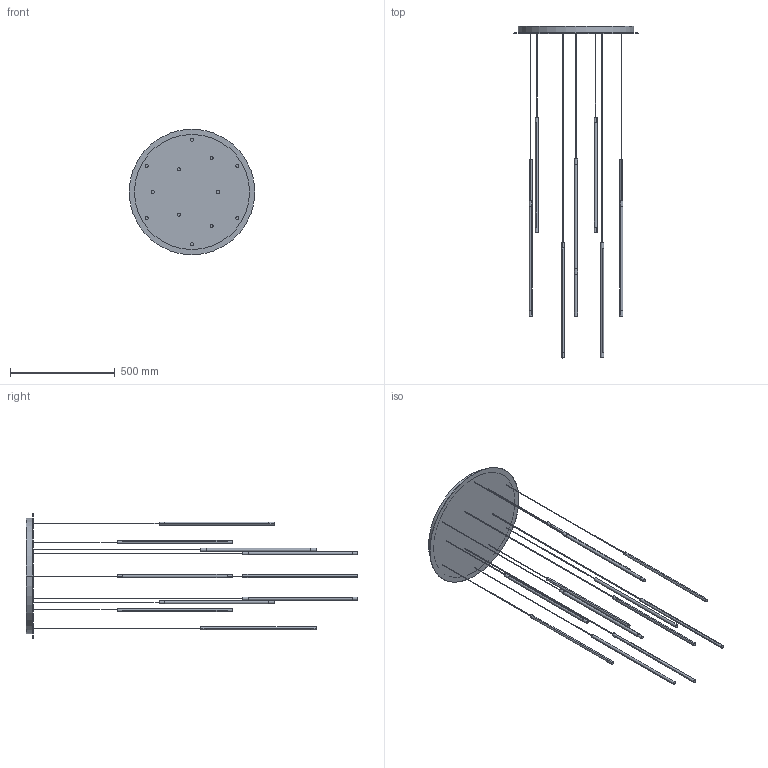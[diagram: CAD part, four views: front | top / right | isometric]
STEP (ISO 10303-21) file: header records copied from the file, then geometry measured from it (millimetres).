
FILE_DESCRIPTION (( 'STEP AP203' ), '1' );
FILE_NAME ('MP14924-xx.STEP', '2019-11-20T21:16:36', ( '' ), ( '' ), 'SwSTEP 2.0', 'SolidWorks 2018', '' );
FILE_SCHEMA (( 'CONFIG_CONTROL_DESIGN' ));
Length unit declared in the file: millimetre
Products named in the file (1): MP14924-xx
Bounding box: 600 x 1585 x 600 mm (x, y, z)
Volume: 9596662.3 mm3; surface area: 1018960.4 mm2
Topology: 1 solids, 1 shells, 148 faces, 339 edges, 218 vertices
Faces by surface type: plane 75, cylinder 73
Entity records: 4298 total; most frequent: DIRECTION 807, CARTESIAN_POINT 706, ORIENTED_EDGE 678, EDGE_CURVE 339, AXIS2_PLACEMENT_3D 319, VERTEX_POINT 218, EDGE_LOOP 173, CIRCLE 170
